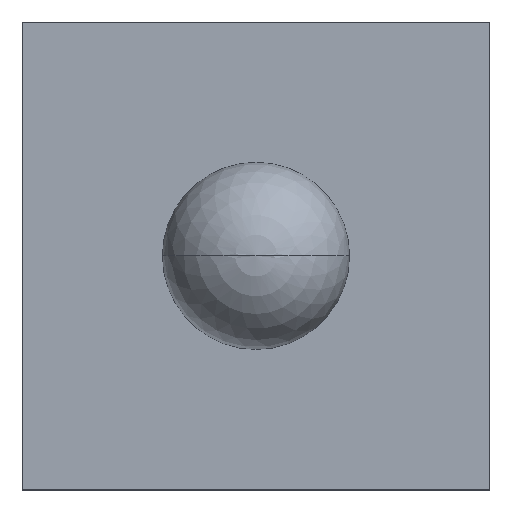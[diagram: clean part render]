
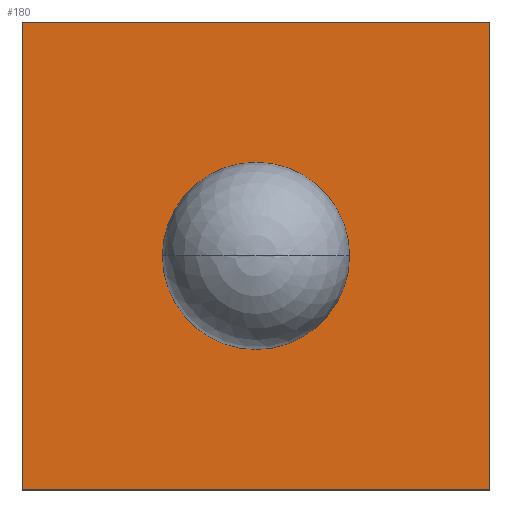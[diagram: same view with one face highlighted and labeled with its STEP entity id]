
A CAD part, top view. The second image highlights one B-rep face of the part: STEP entity #180.
In plain terms, the highlighted planar face has unit normal (0, 0, 1).
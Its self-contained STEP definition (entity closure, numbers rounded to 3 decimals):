
#33=DIRECTION('',(0.,-1.,0.));
#34=VECTOR('',#33,1.);
#35=CARTESIAN_POINT('',(-0.5,0.5,0.3));
#36=LINE('',#35,#34);
#37=DIRECTION('',(-1.,0.,0.));
#38=VECTOR('',#37,1.);
#39=CARTESIAN_POINT('',(0.5,0.5,0.3));
#40=LINE('',#39,#38);
#41=DIRECTION('',(0.,1.,0.));
#42=VECTOR('',#41,1.);
#43=CARTESIAN_POINT('',(0.5,-0.5,0.3));
#44=LINE('',#43,#42);
#45=DIRECTION('',(1.,0.,0.));
#46=VECTOR('',#45,1.);
#47=CARTESIAN_POINT('',(-0.5,-0.5,0.3));
#48=LINE('',#47,#46);
#49=CARTESIAN_POINT('',(0.,0.,0.3));
#50=DIRECTION('',(0.,0.,-1.));
#51=DIRECTION('',(-1.,0.,0.));
#52=AXIS2_PLACEMENT_3D('',#49,#50,#51);
#54=CARTESIAN_POINT('',(0.,0.,0.3));
#55=DIRECTION('',(0.,0.,-1.));
#56=DIRECTION('',(1.,0.,0.));
#57=AXIS2_PLACEMENT_3D('',#54,#55,#56);
#77=CARTESIAN_POINT('',(-0.5,0.5,0.3));
#78=CARTESIAN_POINT('',(-0.5,-0.5,0.3));
#79=VERTEX_POINT('',#77);
#80=VERTEX_POINT('',#78);
#81=CARTESIAN_POINT('',(0.5,-0.5,0.3));
#82=VERTEX_POINT('',#81);
#83=CARTESIAN_POINT('',(0.5,0.5,0.3));
#84=VERTEX_POINT('',#83);
#85=CARTESIAN_POINT('',(-0.2,0.,0.3));
#86=CARTESIAN_POINT('',(0.2,0.,0.3));
#87=VERTEX_POINT('',#85);
#88=VERTEX_POINT('',#86);
#163=CARTESIAN_POINT('',(0.,0.,0.3));
#164=DIRECTION('',(0.,0.,1.));
#165=DIRECTION('',(1.,0.,0.));
#166=AXIS2_PLACEMENT_3D('',#163,#164,#165);
#167=PLANE('',#166);
#168=ORIENTED_EDGE('',*,*,#115,.F.);
#169=ORIENTED_EDGE('',*,*,#130,.F.);
#170=ORIENTED_EDGE('',*,*,#144,.F.);
#171=ORIENTED_EDGE('',*,*,#157,.F.);
#172=EDGE_LOOP('',(#168,#169,#170,#171));
#173=FACE_OUTER_BOUND('',#172,.F.);
#175=ORIENTED_EDGE('',*,*,#174,.F.);
#177=ORIENTED_EDGE('',*,*,#176,.F.);
#178=EDGE_LOOP('',(#175,#177));
#179=FACE_BOUND('',#178,.F.);
#180=ADVANCED_FACE('',(#173,#179),#167,.T.);
#53=CIRCLE('',#52,0.2);
#58=CIRCLE('',#57,0.2);
#115=EDGE_CURVE('',#79,#80,#36,.T.);
#130=EDGE_CURVE('',#84,#79,#40,.T.);
#144=EDGE_CURVE('',#82,#84,#44,.T.);
#157=EDGE_CURVE('',#80,#82,#48,.T.);
#174=EDGE_CURVE('',#87,#88,#53,.T.);
#176=EDGE_CURVE('',#88,#87,#58,.T.);
